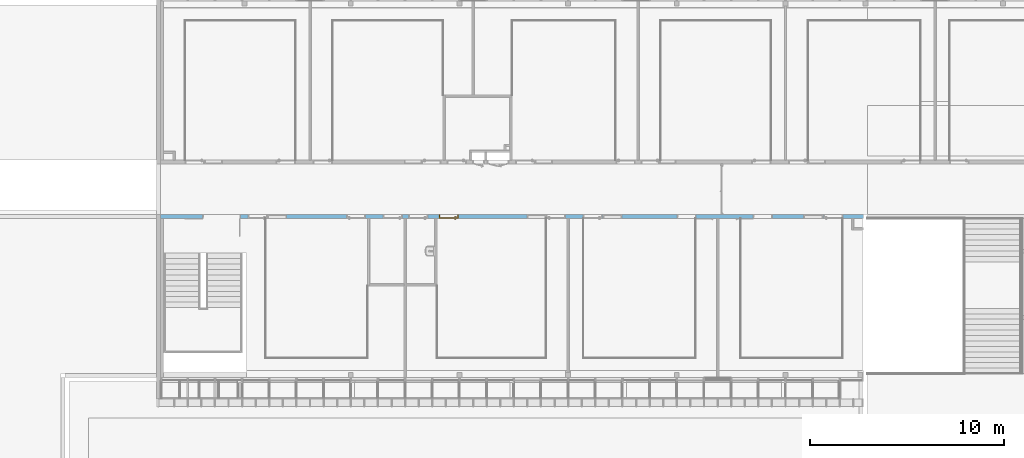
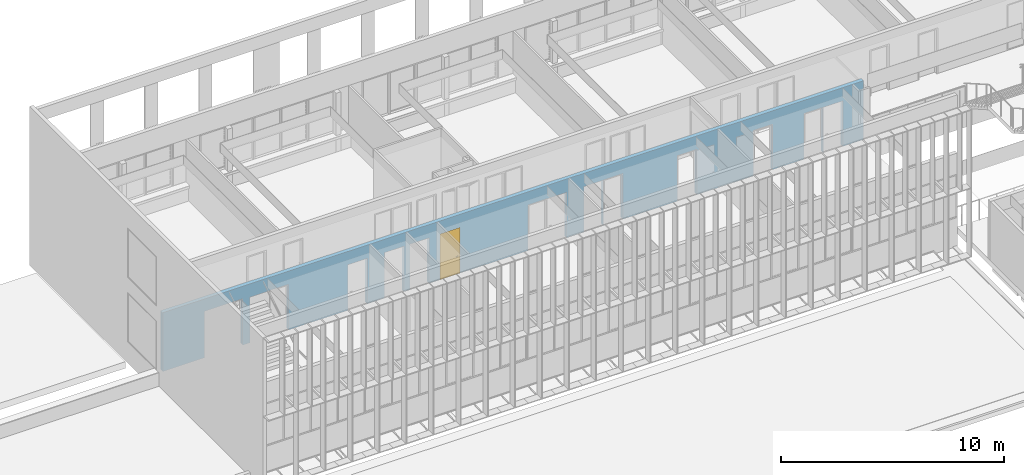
# One storey, part 42 of 106: 1 door, 15 openings, plus 1 element that does not belong to this part.
"""IFC2X3 building model written with IfcOpenShell, lengths in centimetres."""

from ifc_helpers import new_model, entity, si_unit, converted_unit, derived_unit, direction, frame, frame_2d, origin, place, context, subcontext, project, spatial, polyline, rectangle, extrude, clip, bounded_halfspace, faceted_brep, source, transform, mapped, material, material_list, layer, layer_set, layer_usage, type_object, type_shapes, element, fill, save


model = new_model("IFC2X3")

# Units and contexts
model_context = context("Model", 3, precision=0.001, world=origin(), true_north=direction((6.12303176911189e-17, 1.0)))
body_context = subcontext(model_context, "Body", "Model", "MODEL_VIEW")
ifc_project = project(units=[si_unit("LENGTHUNIT", "METRE", prefix="CENTI"), si_unit("AREAUNIT", "SQUARE_METRE"), si_unit("VOLUMEUNIT", "CUBIC_METRE"), converted_unit("PLANEANGLEUNIT", "DEGREE", entity("IfcRatioMeasure", 0.0174532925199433), si_unit("PLANEANGLEUNIT", "RADIAN"), dimensions=[0, 0, 0, 0, 0, 0, 0]), si_unit("MASSUNIT", "GRAM", prefix="KILO"), derived_unit("MASSDENSITYUNIT", [(si_unit("MASSUNIT", "GRAM", prefix="KILO"), 1), (si_unit("LENGTHUNIT", "METRE"), -3)]), si_unit("TIMEUNIT", "SECOND"), si_unit("FREQUENCYUNIT", "HERTZ"), si_unit("THERMODYNAMICTEMPERATUREUNIT", "DEGREE_CELSIUS"), derived_unit("THERMALTRANSMITTANCEUNIT", [(si_unit("MASSUNIT", "GRAM", prefix="KILO"), 1), (si_unit("THERMODYNAMICTEMPERATUREUNIT", "KELVIN"), -1), (si_unit("TIMEUNIT", "SECOND"), -3)]), derived_unit("VOLUMETRICFLOWRATEUNIT", [(si_unit("LENGTHUNIT", "METRE"), 3), (si_unit("TIMEUNIT", "SECOND"), -1)]), si_unit("ELECTRICCURRENTUNIT", "AMPERE"), si_unit("ELECTRICVOLTAGEUNIT", "VOLT"), si_unit("POWERUNIT", "WATT"), si_unit("FORCEUNIT", "NEWTON", prefix="KILO"), si_unit("ILLUMINANCEUNIT", "LUX"), si_unit("LUMINOUSFLUXUNIT", "LUMEN"), si_unit("LUMINOUSINTENSITYUNIT", "CANDELA"), derived_unit("USERDEFINED", [(si_unit("MASSUNIT", "GRAM", prefix="KILO"), -1), (si_unit("LENGTHUNIT", "METRE"), -2), (si_unit("TIMEUNIT", "SECOND"), 3), (si_unit("LUMINOUSFLUXUNIT", "LUMEN"), 1)]), derived_unit("LINEARVELOCITYUNIT", [(si_unit("LENGTHUNIT", "METRE"), 1), (si_unit("TIMEUNIT", "SECOND"), -1)]), si_unit("PRESSUREUNIT", "PASCAL"), derived_unit("USERDEFINED", [(si_unit("LENGTHUNIT", "METRE"), -2), (si_unit("MASSUNIT", "GRAM", prefix="KILO"), 1), (si_unit("TIMEUNIT", "SECOND"), -2)])], contexts=[model_context])

# Site, building, storey
site_placement = place(None, frame((-2781.94577612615, 7442.24238424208, 0.0)))
site = spatial("IfcSite", under=ifc_project, at=site_placement, Name="Default", CompositionType="ELEMENT")
building_placement = place(site_placement, origin())
building = spatial("IfcBuilding", under=site, at=building_placement, CompositionType="ELEMENT")
storey_placement = place(building_placement, frame((0.0, 0.0, 422.0)))
storey = spatial("IfcBuildingStorey", under=building, at=storey_placement, Name="Toiture - Cuisine", CompositionType="ELEMENT", Elevation=421.999999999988)

# Wall, openings, door
ifc_material_1 = material(Name="01 - Maçonnerie")
ifc_layer = layer(ifc_material_1, 20.0)
ifc_layer_set = layer_set([ifc_layer], Name="Mur de base:04 - Structure - béton - 20cm")
ifc_layer_usage = layer_usage(ifc_layer_set, "AXIS2", "NEGATIVE", 10.0)
wall_type = type_object("IfcWallType", Name="Mur de base:04 - Structure - béton - 20cm", PredefinedType="STANDARD", material=ifc_layer_set)
wall_placement = place(building_placement, frame((-4787.99987760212, -1100.0, 422.0), z_axis=(0.0, 0.0, 1.0), x_axis=(-1.0, 0.0, 0.0)))
wall = element("IfcWallStandardCase", 1, at=wall_placement, inside=storey, type_object=wall_type, material=ifc_layer_usage, Name="Mur de base:04 - Structure - béton - 20cm", ObjectType="Mur de base:04 - Structure - béton - 20cm", context=body_context, shape_type="Clipping", body=[
    clip(extrude(rectangle(XDim=3621.50000006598, YDim=20.0000000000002, at=frame_2d((1810.75000003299, 5.32907051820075e-14), x_axis=(-1.0, 0.0))), origin(), (0.0, 0.0, 1.0), 321.0), bounded_halfspace(frame((4.0, -10.0, 321.0), z_axis=(0.0, 0.0, -1.0), x_axis=(0.0, -1.0, 0.0)), True, frame((4.0, -10.0, 321.0)), polyline([(0.0, 0.0), (720.0, 0.0), (730.0, 0.0), (3617.50000006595, 0.0), (3617.50000006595, 20.0), (3602.20000006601, 20.0), (3077.50016406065, 20.0), (3075.50016406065, 20.0), (2550.5, 20.0), (2540.5, 20.0), (2362.50000003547, 20.0), (2352.50000003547, 20.0), (2203.5, 20.0), (2193.5, 20.0), (1632.5, 20.0), (1630.5, 20.0), (1522.50016406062, 20.0), (1512.50016406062, 20.0), (1440.5, 20.0), (1438.5, 20.0), (862.500000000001, 20.0), (860.5, 20.0), (750.500000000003, 20.0), (740.500000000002, 20.0), (630.500000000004, 20.0), (628.500000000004, 20.0), (104.500000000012, 20.0), (102.500000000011, 20.0), (56.0, 20.0), (46.0, 20.0), (0.0, 20.0), (0.0, 0.0)]))),
])
opening_1_placement = place(wall_placement, frame((3071.50016406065, -10.0, 0.0)))
element("IfcOpeningElement", 2, at=opening_1_placement, cuts=wall, Name="Int. Simple:PV (0.93m x 2.50m):1", ObjectType="Opening", context=body_context, shape_type="SweptSolid", body=[
    extrude(rectangle(XDim=248.500000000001, YDim=99.9999999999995, at=frame_2d((124.250000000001, 49.9999999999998), x_axis=(1.0, 0.0))), frame((0.0, 0.0, 0.0), z_axis=(0.0, 1.0, 0.0), x_axis=(0.0, 0.0, 1.0)), (0.0, 0.0, 1.0), 20.0),
])
opening_2_placement = place(wall_placement, frame((1534.5, -10.0, 0.0)))
element("IfcOpeningElement", 3, at=opening_2_placement, cuts=wall, Name="Int. Simple:PV (0.93m x 2.50m):1", ObjectType="Opening", context=body_context, shape_type="SweptSolid", body=[
    extrude(rectangle(XDim=248.500000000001, YDim=99.9999999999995, at=frame_2d((124.250000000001, 50.0), x_axis=(1.0, 0.0))), frame((0.0, 0.0, 0.0), z_axis=(0.0, 1.0, 0.0), x_axis=(0.0, 0.0, 1.0)), (0.0, 0.0, 1.0), 20.0),
])
opening_3_placement = place(wall_placement, frame((861.500000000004, -10.0, 0.0)))
element("IfcOpeningElement", 4, at=opening_3_placement, cuts=wall, Name="Int. Simple:PV (0.93m x 2.50m):1", ObjectType="Opening", context=body_context, shape_type="SweptSolid", body=[
    extrude(rectangle(XDim=248.500000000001, YDim=99.9999999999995, at=frame_2d((124.250000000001, 50.0), x_axis=(1.0, 0.0))), frame((0.0, 0.0, 0.0), z_axis=(0.0, 1.0, 0.0), x_axis=(0.0, 0.0, 1.0)), (0.0, 0.0, 1.0), 20.0),
])
opening_4_placement = place(wall_placement, frame((469.500000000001, -10.0, 0.0)))
element("IfcOpeningElement", 5, at=opening_4_placement, cuts=wall, Name="Int. Simple:PV (0.93m x 2.50m):1", ObjectType="Opening", context=body_context, shape_type="SweptSolid", body=[
    extrude(rectangle(XDim=248.500000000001, YDim=99.9999999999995, at=frame_2d((124.250000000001, 49.9999999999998), x_axis=(1.0, 0.0))), frame((0.0, 0.0, 0.0), z_axis=(0.0, 1.0, 0.0), x_axis=(0.0, 0.0, 1.0)), (0.0, 0.0, 1.0), 20.0),
])
opening_5_placement = place(wall_placement, frame((2971.50016406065, -10.0, 0.0)))
element("IfcOpeningElement", 6, at=opening_5_placement, cuts=wall, Name="châssis intérieur vitré:châssis intérieur vitré (h=270) R+1:1", ObjectType="Opening", context=body_context, shape_type="SweptSolid", body=[
    extrude(rectangle(XDim=250.0, YDim=99.9999999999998, at=frame_2d((125.0, 49.9999999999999), x_axis=(1.0, 0.0))), frame((0.0, 0.0, 0.0), z_axis=(0.0, 1.0, 0.0), x_axis=(0.0, 0.0, 1.0)), (0.0, 0.0, 1.0), 20.0),
])
opening_6_placement = place(wall_placement, frame((1634.50000000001, -10.0, 0.0)))
element("IfcOpeningElement", 7, at=opening_6_placement, cuts=wall, Name="châssis intérieur vitré:châssis intérieur vitré (h=270) R+1:1", ObjectType="Opening", context=body_context, shape_type="SweptSolid", body=[
    extrude(rectangle(XDim=250.0, YDim=99.9999999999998, at=frame_2d((125.0, 49.9999999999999), x_axis=(1.0, 0.0))), frame((0.0, 0.0, 0.0), z_axis=(0.0, 1.0, 0.0), x_axis=(0.0, 0.0, 1.0)), (0.0, 0.0, 1.0), 20.0),
])
opening_7_placement = place(wall_placement, frame((1243.0, -10.0, 0.0)))
element("IfcOpeningElement", 8, at=opening_7_placement, cuts=wall, Name="châssis intérieur vitré:châssis intérieur vitré (h=270) R+1:1", ObjectType="Opening", context=body_context, shape_type="SweptSolid", body=[
    extrude(rectangle(XDim=250.0, YDim=99.9999999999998, at=frame_2d((125.0, 49.9999999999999), x_axis=(1.0, 0.0))), frame((0.0, 0.0, 0.0), z_axis=(0.0, 1.0, 0.0), x_axis=(0.0, 0.0, 1.0)), (0.0, 0.0, 1.0), 20.0),
])
opening_8_placement = place(wall_placement, frame((208.0, -10.0, 0.0)))
element("IfcOpeningElement", 9, at=opening_8_placement, cuts=wall, Name="châssis intérieur vitré:châssis intérieur vitré (h=270) R+1:1", ObjectType="Opening", context=body_context, shape_type="SweptSolid", body=[
    extrude(rectangle(XDim=250.0, YDim=99.9999999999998, at=frame_2d((125.0, 49.9999999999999), x_axis=(1.0, 0.0))), frame((0.0, 0.0, 0.0), z_axis=(0.0, 1.0, 0.0), x_axis=(0.0, 0.0, 1.0)), (0.0, 0.0, 1.0), 20.0),
])
opening_9_placement = place(wall_placement, frame((2564.5, -10.0, 0.0)))
element("IfcOpeningElement", 10, at=opening_9_placement, cuts=wall, Name="Int. Simple:PV (0.93m x 2.50m):1", ObjectType="Opening", context=body_context, shape_type="SweptSolid", body=[
    extrude(rectangle(XDim=248.500000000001, YDim=99.9999999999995, at=frame_2d((124.250000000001, 50.0), x_axis=(1.0, 0.0))), frame((0.0, 0.0, 0.0), z_axis=(0.0, 1.0, 0.0), x_axis=(0.0, 0.0, 1.0)), (0.0, 0.0, 1.0), 20.0),
])
opening_10_placement = place(wall_placement, frame((2374.5, -10.0, 0.0)))
element("IfcOpeningElement", 11, at=opening_10_placement, cuts=wall, Name="Int. Simple:PP simple (0.93m x 2.50m):1", ObjectType="Opening", context=body_context, shape_type="SweptSolid", body=[
    extrude(rectangle(XDim=248.500000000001, YDim=99.9999999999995, at=frame_2d((124.250000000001, 49.9999999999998), x_axis=(1.0, 0.0))), frame((0.0, 0.0, 0.0), z_axis=(0.0, 1.0, 0.0), x_axis=(0.0, 0.0, 1.0)), (0.0, 0.0, 1.0), 20.0),
])
opening_11_placement = place(wall_placement, frame((2244.5, -10.0, 0.0)))
element("IfcOpeningElement", 12, at=opening_11_placement, cuts=wall, Name="Int. Simple:PP simple (0.93m x 2.50m):1", ObjectType="Opening", context=body_context, shape_type="SweptSolid", body=[
    extrude(rectangle(XDim=248.500000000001, YDim=99.9999999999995, at=frame_2d((124.250000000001, 49.9999999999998), x_axis=(1.0, 0.0))), frame((0.0, 0.0, 0.0), z_axis=(0.0, 1.0, 0.0), x_axis=(0.0, 0.0, 1.0)), (0.0, 0.0, 1.0), 20.0),
])
opening_12_placement = place(wall_placement, frame((2087.5, -10.0, 0.0)))
opening_12 = element("IfcOpeningElement", 13, at=opening_12_placement, cuts=wall, Name="Int. Simple:PV (0.93m x 2.50m):1", ObjectType="Opening", context=body_context, shape_type="SweptSolid", body=[
    extrude(rectangle(XDim=248.500000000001, YDim=99.9999999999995, at=frame_2d((124.250000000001, 49.9999999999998), x_axis=(1.0, 0.0))), frame((0.0, 0.0, 0.0), z_axis=(0.0, 1.0, 0.0), x_axis=(0.0, 0.0, 1.0)), (0.0, 0.0, 1.0), 20.0),
])
opening_13_placement = place(wall_placement, frame((1344.5, -10.0, 0.0)))
element("IfcOpeningElement", 14, at=opening_13_placement, cuts=wall, Name="Int. Simple:PV (0.93m x 2.50m):1", ObjectType="Opening", context=body_context, shape_type="SweptSolid", body=[
    extrude(rectangle(XDim=248.500000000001, YDim=99.9999999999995, at=frame_2d((124.250000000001, 49.9999999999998), x_axis=(1.0, 0.0))), frame((0.0, 0.0, 0.0), z_axis=(0.0, 1.0, 0.0), x_axis=(0.0, 0.0, 1.0)), (0.0, 0.0, 1.0), 20.0),
])
opening_14_placement = place(wall_placement, frame((106.500000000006, -10.0, 0.0)))
element("IfcOpeningElement", 15, at=opening_14_placement, cuts=wall, Name="Int. Simple:PV (0.93m x 2.50m):1", ObjectType="Opening", context=body_context, shape_type="SweptSolid", body=[
    extrude(rectangle(XDim=248.500000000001, YDim=99.9999999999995, at=frame_2d((124.250000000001, 50.0), x_axis=(1.0, 0.0))), frame((0.0, 0.0, 0.0), z_axis=(0.0, 1.0, 0.0), x_axis=(0.0, 0.0, 1.0)), (0.0, 0.0, 1.0), 20.0),
])
opening_15_placement = place(wall_placement, frame((3208.50000000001, -10.0, 0.0)))
element("IfcOpeningElement", 16, at=opening_15_placement, cuts=wall, Name="Int. Double:PP (1.90m x 2.50m):1", ObjectType="Opening", context=body_context, shape_type="SweptSolid", body=[
    extrude(rectangle(XDim=253.500000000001, YDim=197.0, at=frame_2d((126.750000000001, 98.5), x_axis=(1.0, 0.0))), frame((0.0, 0.0, 0.0), z_axis=(0.0, 1.0, 0.0), x_axis=(0.0, 0.0, 1.0)), (0.0, 0.0, 1.0), 20.0),
])
ifc_material_2 = material(Name="Finition Peinture - Blanc satiné")
ifc_material_3 = material(Name="Bois - Panneau de porte")
ifc_material_4 = material(Name="Bois - Cadre de porte")
ifc_material_list_1 = material_list([ifc_material_2, ifc_material_3, ifc_material_4])
ifc_material_list_2 = material_list([ifc_material_2, ifc_material_3, ifc_material_4])
door_style = type_object("IfcDoorStyle", Name="PV (0.93m x 2.50m)", ConstructionType="NOTDEFINED", OperationType="SINGLE_SWING_RIGHT", ParameterTakesPrecedence=False, Sizeable=False, material=ifc_material_list_2)
shared_shape = source(origin(), body_context, "Body", "Brep", [
    faceted_brep([(99.5000000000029, -0.500000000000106, 87.0), (99.5000000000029, -0.500000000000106, 108.0), (98.535276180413, -0.500000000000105, 108.399601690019), (97.5000000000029, -0.500000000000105, 108.535898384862), (96.4647238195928, -0.500000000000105, 108.399601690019), (95.500000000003, -0.500000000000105, 108.0), (95.5000000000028, -0.500000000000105, 87.0), (96.4647238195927, -0.500000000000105, 86.6003983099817), (97.5000000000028, -0.500000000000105, 86.464101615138), (98.5352761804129, -0.500000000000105, 86.6003983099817), (99.5000000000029, 0.0, 108.0), (99.5000000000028, 0.0, 87.0), (98.5352761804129, 0.0, 86.6003983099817), (97.5000000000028, 0.0, 86.464101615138), (96.4647238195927, 0.0, 86.6003983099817), (95.5000000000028, 0.0, 87.0), (95.5000000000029, 0.0, 108.0), (96.4647238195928, 0.0, 108.399601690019), (97.5000000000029, 0.0, 108.535898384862), (98.535276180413, 0.0, 108.399601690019)], [[[0, 1, 2, 3, 4, 5, 6, 7, 8, 9]], [[10, 11, 12, 13, 14, 15, 16, 17, 18, 19]], [[9, 12, 11, 0]], [[8, 13, 12, 9]], [[7, 14, 13, 8]], [[7, 6, 15, 14]], [[15, 6, 5, 16]], [[4, 17, 16, 5]], [[3, 18, 17, 4]], [[2, 19, 18, 3]], [[2, 1, 10, 19]], [[11, 10, 1, 0]]]),
    faceted_brep([(99.5000000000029, 4.0, 87.0), (99.5000000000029, 4.0, 108.0), (98.535276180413, 4.0, 108.399601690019), (97.5000000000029, 4.0, 108.535898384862), (96.4647238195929, 4.0, 108.399601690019), (95.500000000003, 4.0, 108.0), (95.5000000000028, 4.0, 87.0), (96.4647238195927, 4.0, 86.6003983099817), (97.5000000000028, 4.0, 86.464101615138), (98.5352761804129, 4.0, 86.6003983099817), (97.5000000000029, 4.49999999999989, 108.535898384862), (98.535276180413, 4.49999999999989, 108.399601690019), (99.5000000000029, 4.49999999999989, 108.0), (99.5000000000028, 4.49999999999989, 87.0), (98.5352761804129, 4.49999999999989, 86.6003983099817), (97.5000000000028, 4.49999999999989, 86.464101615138), (96.4647238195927, 4.49999999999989, 86.6003983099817), (95.5000000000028, 4.49999999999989, 87.0), (95.500000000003, 4.49999999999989, 108.0), (96.4647238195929, 4.49999999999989, 108.399601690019)], [[[0, 1, 2, 3, 4, 5, 6, 7, 8, 9]], [[10, 11, 12, 13, 14, 15, 16, 17, 18, 19]], [[4, 19, 18, 5]], [[3, 10, 19, 4]], [[2, 11, 10, 3]], [[2, 1, 12, 11]], [[13, 12, 1, 0]], [[9, 14, 13, 0]], [[8, 15, 14, 9]], [[7, 16, 15, 8]], [[7, 6, 17, 16]], [[17, 6, 5, 18]]]),
    faceted_brep([(97.2974701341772, -0.500000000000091, 100.778044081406), (97.7025298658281, -0.500000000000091, 100.778044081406), (98.1000000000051, -0.500000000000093, 100.699999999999), (98.100000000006, -0.500000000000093, 99.2999999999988), (97.7025298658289, -0.500000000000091, 99.221955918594), (97.297470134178, -0.500000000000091, 99.2219559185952), (96.9000000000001, -0.500000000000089, 99.3000000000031), (96.9000000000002, -0.500000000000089, 100.7), (97.7025298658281, -3.10045754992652, 100.778044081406), (98.1000000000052, -3.26509507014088, 100.7), (97.2974701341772, -2.93267631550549, 100.778044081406), (95.9298602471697, -4.30028620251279, 100.778044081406), (96.0976414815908, -4.70534593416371, 100.778044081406), (96.9000000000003, -2.76803879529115, 100.7), (96.9000000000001, -2.76803879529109, 99.3000000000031), (97.297470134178, -2.93267631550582, 99.2219559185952), (97.7025298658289, -3.10045754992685, 99.221955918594), (96.0976414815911, -4.70534593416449, 99.221955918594), (95.9298602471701, -4.30028620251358, 99.2219559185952), (98.100000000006, -3.26509507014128, 99.2999999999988), (96.2622790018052, -5.1028160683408, 100.7), (95.7652227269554, -3.90281606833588, 100.7), (95.7652227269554, -3.90281606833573, 99.3000000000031), (96.2622790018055, -5.10281606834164, 99.2999999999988), (87.4981359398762, -5.10281606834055, 100.7), (87.4981359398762, -4.70534593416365, 100.778044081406), (87.4981359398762, -4.30028620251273, 100.778044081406), (87.4981359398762, -3.90281606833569, 100.699999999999), (87.4981359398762, -3.90281606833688, 99.3000000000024), (87.4981359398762, -4.30028620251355, 99.2219559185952), (87.4981359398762, -4.70534593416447, 99.221955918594), (87.4981359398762, -5.10281606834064, 99.2999999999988), (91.7139980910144, -4.5028160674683, 100.78786867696), (92.2692302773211, -5.1028160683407, 100.7), (91.6316793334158, -3.9028160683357, 100.7), (91.631679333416, -3.90281606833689, 99.3000000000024), (91.7139981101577, -4.50281607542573, 99.2121313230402), (92.2692310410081, -5.10281606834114, 99.2999999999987)], [[[0, 1, 2, 3, 4, 5, 6, 7]], [[2, 1, 8, 9]], [[1, 0, 10, 11, 12, 8]], [[0, 7, 13, 10]], [[14, 13, 7, 6]], [[5, 15, 14, 6]], [[5, 4, 16, 17, 18, 15]], [[3, 19, 16, 4]], [[9, 19, 3, 2]], [[9, 8, 12, 20]], [[10, 13, 21, 11]], [[22, 21, 13, 14]], [[14, 15, 18, 22]], [[16, 19, 23, 17]], [[20, 23, 19, 9]], [[24, 25, 26, 27, 28, 29, 30, 31]], [[32, 25, 33]], [[33, 25, 24]], [[33, 20, 12]], [[11, 34, 32]], [[34, 11, 21]], [[27, 26, 34]], [[32, 26, 25]], [[32, 34, 26]], [[32, 33, 12]], [[11, 32, 12]], [[21, 22, 35, 28, 27, 34]], [[36, 29, 35]], [[30, 36, 37]], [[18, 35, 22]], [[29, 28, 35]], [[30, 37, 31]], [[37, 17, 23]], [[36, 17, 37]], [[36, 18, 17]], [[36, 35, 18]], [[29, 36, 30]], [[23, 20, 33, 24, 31, 37]]]),
    faceted_brep([(97.2974701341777, 4.49999999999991, 99.2219559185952), (97.7025298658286, 4.49999999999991, 99.221955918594), (98.1000000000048, 4.4999999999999, 99.2999999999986), (98.1000000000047, 4.4999999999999, 100.7), (97.7025298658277, 4.49999999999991, 100.778044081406), (97.2974701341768, 4.49999999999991, 100.778044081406), (96.8999999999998, 4.49999999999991, 100.7), (96.900000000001, 4.49999999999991, 99.3000000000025), (96.8999999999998, 6.7485204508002, 100.7), (96.8999999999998, 6.74852045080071, 99.3000000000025), (97.2974701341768, 6.91315797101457, 100.778044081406), (97.7025298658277, 7.0809392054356, 100.778044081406), (96.0838906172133, 8.69957845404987, 100.778044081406), (95.9161093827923, 8.29451872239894, 100.778044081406), (98.1000000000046, 7.24557672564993, 100.7), (98.1000000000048, 7.24557672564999, 99.2999999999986), (97.7025298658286, 7.08093920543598, 99.221955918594), (97.2974701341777, 6.91315797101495, 99.2219559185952), (95.9161093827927, 8.29451872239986, 99.2219559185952), (96.0838906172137, 8.69957845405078, 99.221955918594), (95.751471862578, 7.89704858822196, 100.7), (95.7514718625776, 7.89704858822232, 99.3000000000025), (96.2485281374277, 9.09704858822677, 100.7), (96.2485281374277, 9.09704858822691, 99.2999999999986), (87.4954216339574, 8.29451872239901, 100.778044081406), (87.4954216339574, 8.69957845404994, 100.778044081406), (87.4954216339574, 9.09704858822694, 100.7), (87.4954216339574, 9.09704858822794, 99.2999999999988), (87.4954216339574, 8.6995784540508, 99.221955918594), (87.4954216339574, 8.29451872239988, 99.2219559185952), (87.4954216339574, 7.89704858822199, 99.3000000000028), (87.4954216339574, 7.89704858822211, 100.7), (91.6234467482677, 7.89704858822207, 100.7), (91.6234479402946, 7.89704858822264, 99.3000000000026), (91.7057655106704, 8.49704858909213, 100.78786867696), (92.255479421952, 9.09704858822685, 100.7), (92.2554795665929, 9.09704858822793, 99.2999999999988), (91.7057654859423, 8.49704858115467, 99.2121313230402)], [[[0, 1, 2, 3, 4, 5, 6, 7]], [[8, 9, 7, 6]], [[5, 10, 8, 6]], [[5, 4, 11, 12, 13, 10]], [[3, 14, 11, 4]], [[14, 3, 2, 15]], [[2, 1, 16, 15]], [[1, 0, 17, 18, 19, 16]], [[0, 7, 9, 17]], [[20, 21, 9, 8]], [[8, 10, 13, 20]], [[14, 22, 12, 11]], [[23, 22, 14, 15]], [[15, 16, 19, 23]], [[17, 9, 21, 18]], [[24, 25, 26, 27, 28, 29, 30, 31]], [[21, 20, 32, 31, 30, 33]], [[34, 24, 32]], [[25, 34, 35]], [[13, 32, 20]], [[24, 31, 32]], [[25, 35, 26]], [[35, 12, 22]], [[34, 12, 35]], [[34, 13, 12]], [[34, 32, 13]], [[24, 34, 25]], [[22, 23, 36, 27, 26, 35]], [[37, 28, 36]], [[36, 28, 27]], [[36, 23, 19]], [[18, 33, 37]], [[33, 18, 21]], [[30, 29, 33]], [[37, 29, 28]], [[37, 33, 29]], [[37, 36, 19]], [[18, 37, 19]]]),
    faceted_brep([(103.500000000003, 4.0, 245.0), (103.500000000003, 4.0, 0.0), (10.5000000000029, 4.0, 0.0), (10.5000000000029, 4.0, 245.0), (103.500000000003, 0.0, 245.0), (10.5000000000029, 0.0, 245.0), (10.5000000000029, 0.0, 0.0), (103.500000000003, 0.0, 0.0)], [[[0, 1, 2, 3]], [[4, 5, 6, 7]], [[3, 5, 4, 0]], [[2, 6, 5, 3]], [[1, 7, 6, 2]], [[0, 4, 7, 1]]]),
    faceted_brep([(107.0, 20.0, 0.0), (107.0, 0.0, 0.0), (108.500000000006, 0.0, 0.0), (108.500000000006, -0.500000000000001, 0.0), (103.500000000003, -0.500000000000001, 0.0), (103.500000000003, 4.0, 0.0), (102.0, 4.0, 0.0), (102.0, 20.5000000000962, 0.0), (108.500000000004, 20.5000000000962, 0.0), (108.500000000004, 20.0, 0.0), (108.500000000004, 20.0, 250.0), (5.50000000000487, 20.0, 250.0), (5.50000000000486, 20.0, 0.0), (7.0, 20.0, 0.0), (7.0, 20.0, 248.500000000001), (107.0, 20.0, 248.500000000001), (108.500000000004, 20.5000000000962, 250.0), (102.0, 20.5000000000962, 243.5), (12.0, 20.5000000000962, 243.5), (12.0, 20.5000000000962, 0.0), (5.50000000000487, 20.5000000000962, 0.0), (5.50000000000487, 20.5000000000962, 250.0), (102.0, 4.0, 243.5), (103.500000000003, 4.0, 245.0), (10.5000000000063, 4.0, 245.0), (10.5000000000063, 4.0, 0.0), (12.0, 4.0, 0.0), (12.0, 4.0, 243.5), (103.500000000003, -0.500000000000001, 245.0), (108.500000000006, -0.500000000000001, 250.0), (5.5000000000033, -0.500000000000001, 250.0), (5.50000000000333, -0.500000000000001, 0.0), (10.5000000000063, -0.500000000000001, 0.0), (10.5000000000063, -0.500000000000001, 245.0), (108.500000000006, 0.0, 250.0), (107.0, 0.0, 248.500000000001), (7.0, 0.0, 248.500000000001), (7.0, 0.0, 0.0), (5.5000000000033, 0.0, 0.0), (5.50000000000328, 0.0, 250.0)], [[[0, 1, 2, 3, 4, 5, 6, 7, 8, 9]], [[9, 10, 11, 12, 13, 14, 15, 0]], [[8, 16, 10, 9]], [[7, 17, 18, 19, 20, 21, 16, 8]], [[7, 6, 22, 17]], [[5, 23, 24, 25, 26, 27, 22, 6]], [[5, 4, 28, 23]], [[3, 29, 30, 31, 32, 33, 28, 4]], [[2, 34, 29, 3]], [[1, 35, 36, 37, 38, 39, 34, 2]], [[0, 15, 35, 1]], [[14, 13, 37, 36]], [[13, 12, 20, 19, 26, 25, 32, 31, 38, 37]], [[21, 20, 12, 11]], [[27, 26, 19, 18]], [[33, 32, 25, 24]], [[39, 38, 31, 30]], [[16, 21, 11, 10]], [[22, 27, 18, 17]], [[28, 33, 24, 23]], [[34, 39, 30, 29]], [[15, 14, 36, 35]]]),
])
type_shapes(door_style, [shared_shape])
door_placement = place(opening_12_placement, frame((107.0, 20.0, 0.0), z_axis=(0.0, 0.0, 1.0), x_axis=(-1.0, 0.0, 0.0)))
door = element("IfcDoor", 17, at=door_placement, inside=storey, type_object=door_style, material=ifc_material_list_1, Name="Int. Simple:PV (0.93m x 2.50m)", ObjectType="Int. Simple:PV (0.93m x 2.50m)", OverallHeight=248.500000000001, OverallWidth=99.9999999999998, context=body_context, shape_type="MappedRepresentation", body=[
    mapped(shared_shape, transform((0.0, 0.0, 0.0), scale=1.0)),
])
fill(opening_12, door)

save(model, "model.ifc")
